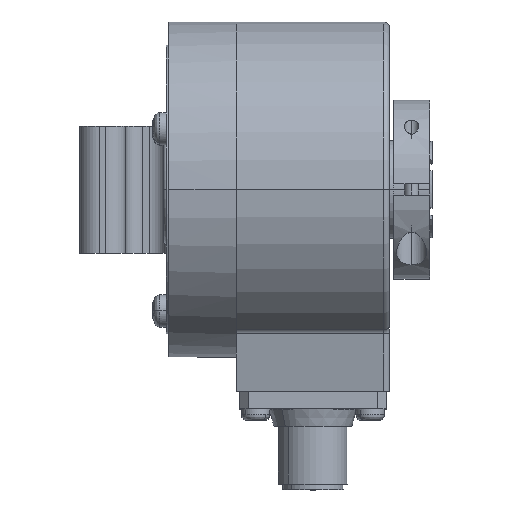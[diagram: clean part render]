
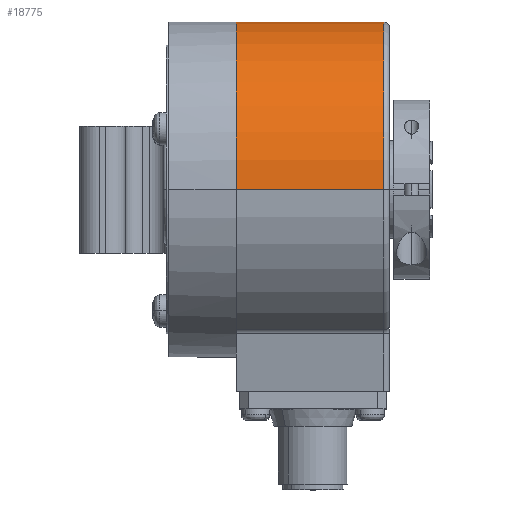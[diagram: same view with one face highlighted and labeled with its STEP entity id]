
A CAD part, top view. The second image highlights one B-rep face of the part: STEP entity #18775.
In plain terms, the highlighted cylindrical face has radius 29 mm (diameter 58 mm), a partial arc.
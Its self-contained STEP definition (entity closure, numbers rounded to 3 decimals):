
#49 = DIRECTION ( 'NONE',  ( -1., 0., 0. ) ) ;
#713 = ORIENTED_EDGE ( 'NONE', *, *, #7069, .T. ) ;
#1108 = AXIS2_PLACEMENT_3D ( 'NONE', #5028, #11328, #12707 ) ;
#4349 = CARTESIAN_POINT ( 'NONE',  ( 8.068, 25.423, -29. ) ) ;
#4599 = LINE ( 'NONE', #4349, #12271 ) ;
#5028 = CARTESIAN_POINT ( 'NONE',  ( 33.568, 25.423, 0. ) ) ;
#5239 = VECTOR ( 'NONE', #19846, 1000. ) ;
#6492 = ORIENTED_EDGE ( 'NONE', *, *, #19884, .F. ) ;
#7069 = EDGE_CURVE ( 'NONE', #24273, #10265, #4599, .T. ) ;
#7736 = DIRECTION ( 'NONE',  ( -1., 0., 0. ) ) ;
#8680 = LINE ( 'NONE', #14492, #5239 ) ;
#9806 = CIRCLE ( 'NONE', #20882, 29. ) ;
#9886 = CARTESIAN_POINT ( 'NONE',  ( 33.568, 25.423, -29. ) ) ;
#10265 = VERTEX_POINT ( 'NONE', #12099 ) ;
#10621 = CARTESIAN_POINT ( 'NONE',  ( 33.568, 25.423, 29. ) ) ;
#11328 = DIRECTION ( 'NONE',  ( -1., 0., 0. ) ) ;
#11957 = ORIENTED_EDGE ( 'NONE', *, *, #12290, .F. ) ;
#12099 = CARTESIAN_POINT ( 'NONE',  ( 8.068, 25.423, -29. ) ) ;
#12271 = VECTOR ( 'NONE', #7736, 1000. ) ;
#12290 = EDGE_CURVE ( 'NONE', #20361, #18003, #8680, .T. ) ;
#12449 = CYLINDRICAL_SURFACE ( 'NONE', #17673, 29. ) ;
#12707 = DIRECTION ( 'NONE',  ( 0., 0., -1. ) ) ;
#12950 = CARTESIAN_POINT ( 'NONE',  ( 8.068, 25.423, 0. ) ) ;
#14005 = ORIENTED_EDGE ( 'NONE', *, *, #19788, .T. ) ;
#14492 = CARTESIAN_POINT ( 'NONE',  ( 8.068, 25.423, 29. ) ) ;
#14575 = DIRECTION ( 'NONE',  ( 0., 0., -1. ) ) ;
#15412 = EDGE_LOOP ( 'NONE', ( #11957, #14005, #713, #6492 ) ) ;
#17673 = AXIS2_PLACEMENT_3D ( 'NONE', #22013, #18030, #19907 ) ;
#17772 = CARTESIAN_POINT ( 'NONE',  ( 8.068, 25.423, 29. ) ) ;
#18003 = VERTEX_POINT ( 'NONE', #17772 ) ;
#18030 = DIRECTION ( 'NONE',  ( -1., 0., 0. ) ) ;
#18775 = ADVANCED_FACE ( 'NONE', ( #19048 ), #12449, .T. ) ;
#19048 = FACE_OUTER_BOUND ( 'NONE', #15412, .T. ) ;
#19717 = CIRCLE ( 'NONE', #1108, 29. ) ;
#19788 = EDGE_CURVE ( 'NONE', #20361, #24273, #19717, .T. ) ;
#19846 = DIRECTION ( 'NONE',  ( -1., 0., 0. ) ) ;
#19884 = EDGE_CURVE ( 'NONE', #18003, #10265, #9806, .T. ) ;
#19907 = DIRECTION ( 'NONE',  ( 0., 0., -1. ) ) ;
#20361 = VERTEX_POINT ( 'NONE', #10621 ) ;
#20882 = AXIS2_PLACEMENT_3D ( 'NONE', #12950, #49, #14575 ) ;
#22013 = CARTESIAN_POINT ( 'NONE',  ( 8.068, 25.423, 0. ) ) ;
#24273 = VERTEX_POINT ( 'NONE', #9886 ) ;
